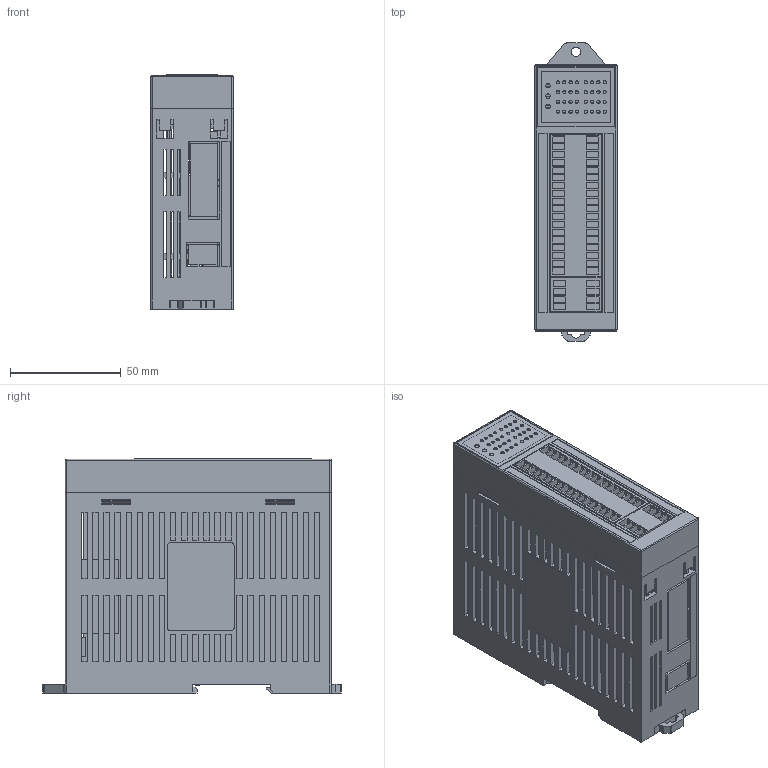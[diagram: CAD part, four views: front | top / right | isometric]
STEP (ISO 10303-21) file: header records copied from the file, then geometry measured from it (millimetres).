
FILE_DESCRIPTION((''),'2;1');
FILE_NAME('PC5E-32ET-DS_ASM','2019-08-02T',('PCBD'),(''),'PRO/ENGINEER BY PARAMETRIC TECHNOLOGY CORPORATION, 2010280','PRO/ENGINEER BY PARAMETRIC TECHNOLOGY CORPORATION, 2010280','');
FILE_SCHEMA(('CONFIG_CONTROL_DESIGN'));
Length unit declared in the file: millimetre
Products named in the file (21): CASEBACK_MOLD; PCB_PC5E_32ET_DS; 90DGRFRM3; 90DGRPIN3; 90DGRPIN4; 90DGRA2_ASM; DSPLBD; 90DGRFRM2; SMT0603; DSPLBD_ASM; WIRINGPLUG_8PIN; RJ45X2_PARA; 2PIN_LVDUANZI3P5; SPRING2; PCB_PC5E_32ET_DS_2; WIRINGPLUG_36PIN; PCBA_PC5E-38ET-DS_ASM; SFACE; GUAKOU; FILM; PC5E-32ET-DS_ASM
Assembly tree (74 placements, depth 4):
  PC5E-32ET-DS_ASM
    CASEBACK_MOLD
    PCBA_PC5E-38ET-DS_ASM
      PCB_PC5E_32ET_DS
      90DGRA2_ASM
        90DGRFRM3
        90DGRPIN3  x11
        90DGRPIN4  x11
      DSPLBD_ASM
        DSPLBD
        90DGRFRM2
        SMT0603  x35
      WIRINGPLUG_8PIN
      RJ45X2_PARA
      2PIN_LVDUANZI3P5
      SPRING2
      PCB_PC5E_32ET_DS_2
      WIRINGPLUG_36PIN
    SFACE
    GUAKOU
    FILM
Bounding box: 37 x 134.5 x 105.6 mm (x, y, z)
Volume: 143048.4 mm3; surface area: 150361 mm2
Topology: 71 solids, 71 shells, 2033 faces, 5357 edges, 3548 vertices
Faces by surface type: plane 1698, cylinder 321, torus 6, sphere 4, cone 4
Entity records: 54292 total; most frequent: CARTESIAN_POINT 9698, ORIENTED_EDGE 9178, DIRECTION 8739, EDGE_CURVE 4589, VECTOR 3949, LINE 3949, VERTEX_POINT 3036, AXIS2_PLACEMENT_3D 2395
